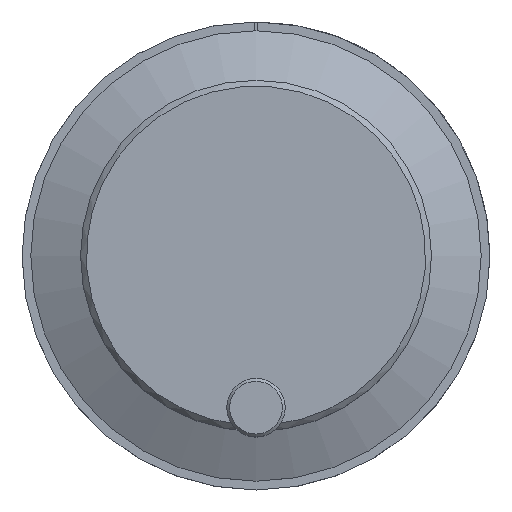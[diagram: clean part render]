
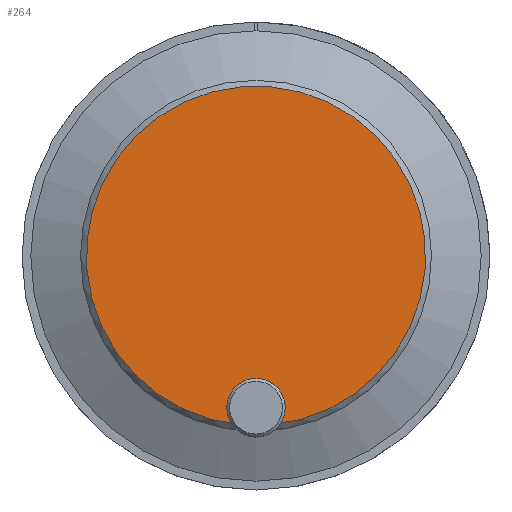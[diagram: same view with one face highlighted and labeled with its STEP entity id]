
A CAD part, top view. The second image highlights one B-rep face of the part: STEP entity #264.
In plain terms, the highlighted planar face has unit normal (0, 0, 1).
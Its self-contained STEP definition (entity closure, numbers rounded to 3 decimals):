
#212=CARTESIAN_POINT('',(-2.791,-28.865,22.1));
#213=VERTEX_POINT('',#212);
#214=CARTESIAN_POINT('',(2.791,-28.865,22.1));
#215=VERTEX_POINT('',#214);
#216=CARTESIAN_POINT('',(0.0,-26.0,22.1));
#217=DIRECTION('',(0.0,0.0,-1.0));
#218=DIRECTION('',(-1.0,0.0,0.0));
#219=AXIS2_PLACEMENT_3D('',#216,#217,#218);
#220=CIRCLE('',#219,4.0);
#221=EDGE_CURVE('',#213,#215,#220,.T.);
#249=CARTESIAN_POINT('',(0.,-23.619,22.1));
#250=DIRECTION('',(0.0,0.0,1.0));
#251=DIRECTION('',(1.0,0.0,0.0));
#252=AXIS2_PLACEMENT_3D('',#249,#250,#251);
#253=PLANE('',#252);
#254=ORIENTED_EDGE('',*,*,#221,.T.);
#255=CARTESIAN_POINT('',(0.0,0.0,22.1));
#256=DIRECTION('',(0.0,0.0,-1.0));
#257=DIRECTION('',(0.0,-1.0,0.0));
#258=AXIS2_PLACEMENT_3D('',#255,#256,#257);
#259=CIRCLE('',#258,29.);
#260=EDGE_CURVE('',#213,#215,#259,.T.);
#261=ORIENTED_EDGE('',*,*,#260,.F.);
#262=EDGE_LOOP('',(#254,#261));
#263=FACE_OUTER_BOUND('',#262,.T.);
#264=ADVANCED_FACE('',(#263),#253,.T.);
